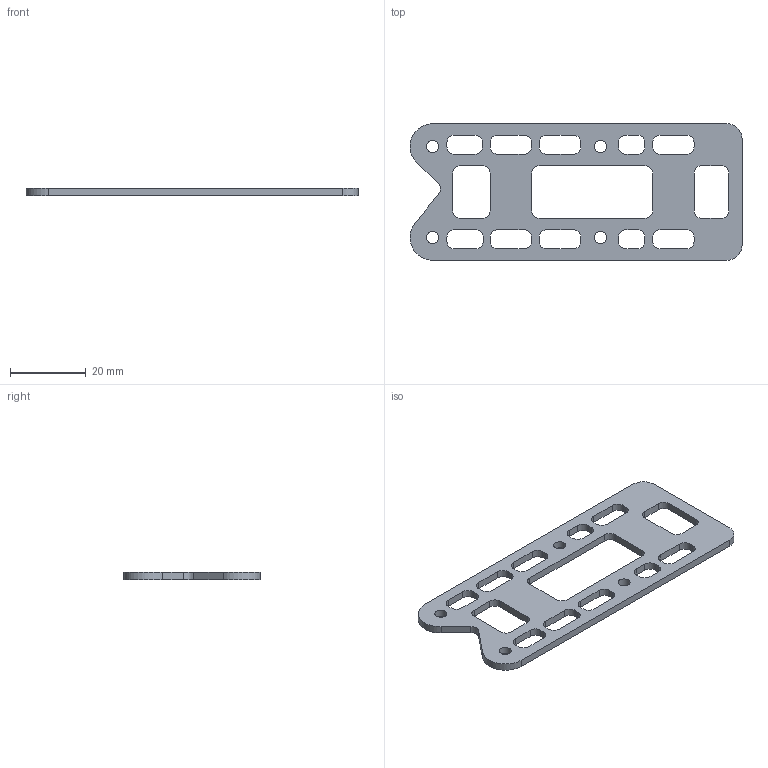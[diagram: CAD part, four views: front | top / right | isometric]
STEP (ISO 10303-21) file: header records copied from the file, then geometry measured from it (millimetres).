
FILE_DESCRIPTION((''),'2;1');
FILE_NAME('D:\Universal Air\Development\R10\CAD\V5\CAD Release 1\Mount.stp','2013-06-02T10:27:40',('Henry'),(''),'Autodesk Inventor 2013','Autodesk Inventor 2013','');
FILE_SCHEMA(('AUTOMOTIVE_DESIGN { 1 0 10303 214 1 1 1 1 }'));
Length unit declared in the file: millimetre
Products named in the file (1): Mount
Bounding box: 87.87 x 36.13 x 2 mm (x, y, z)
Volume: 3724 mm3; surface area: 5176.6 mm2
Topology: 1 solids, 1 shells, 120 faces, 358 edges, 240 vertices
Faces by surface type: cylinder 61, plane 59
Full cylindrical faces by diameter (mm): 3.2 x4
Entity records: 4114 total; most frequent: DIRECTION 714, CARTESIAN_POINT 707, ORIENTED_EDGE 700, EDGE_CURVE 350, AXIS2_PLACEMENT_3D 243, VERTEX_POINT 236, VECTOR 228, LINE 228
